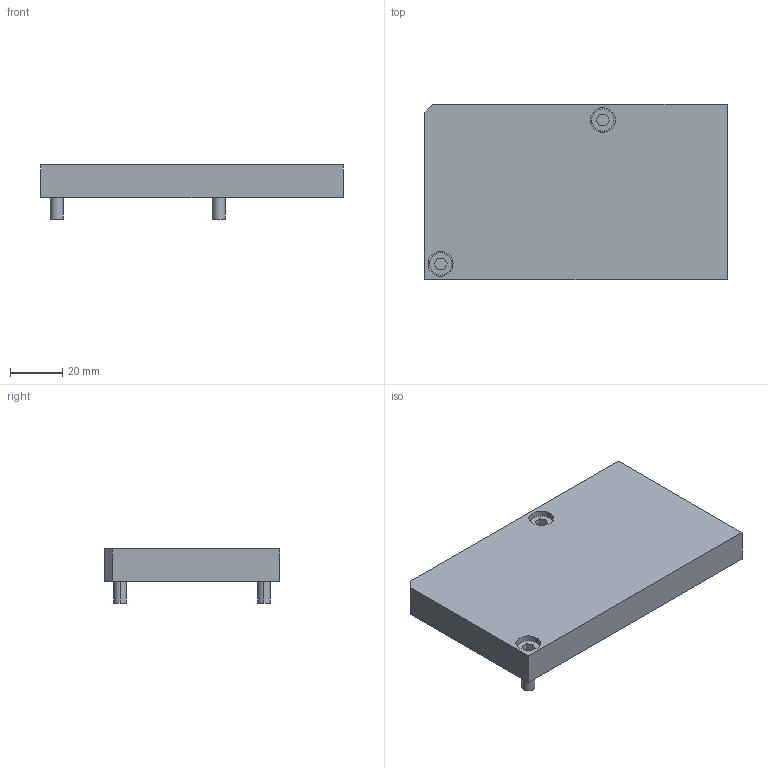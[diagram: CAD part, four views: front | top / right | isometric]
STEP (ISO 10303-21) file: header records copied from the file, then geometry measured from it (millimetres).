
FILE_DESCRIPTION((''),'2;1');
FILE_NAME('R412023458','2016-09-01T',('tng2hc'),(''),'PRO/ENGINEER BY PARAMETRIC TECHNOLOGY CORPORATION, 2012421','PRO/ENGINEER BY PARAMETRIC TECHNOLOGY CORPORATION, 2012421','');
FILE_SCHEMA(('CONFIG_CONTROL_DESIGN','SHAPE_APPEARANCE_LAYERS_GROUPS'));
Length unit declared in the file: millimetre
Products named in the file (1): R412023458
Bounding box: 115.5 x 67 x 20.7 mm (x, y, z)
Volume: 95331.1 mm3; surface area: 21890.8 mm2
Topology: 1 solids, 1 shells, 54 faces, 123 edges, 82 vertices
Faces by surface type: plane 32, cylinder 22
Entity records: 1589 total; most frequent: DIRECTION 275, CARTESIAN_POINT 259, ORIENTED_EDGE 246, EDGE_CURVE 123, AXIS2_PLACEMENT_3D 98, VERTEX_POINT 82, VECTOR 79, LINE 79
